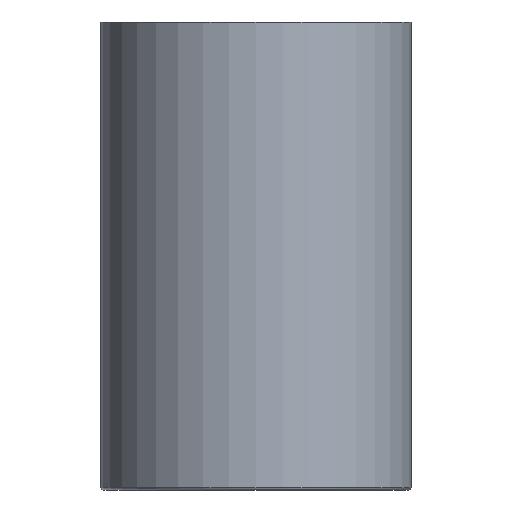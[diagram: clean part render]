
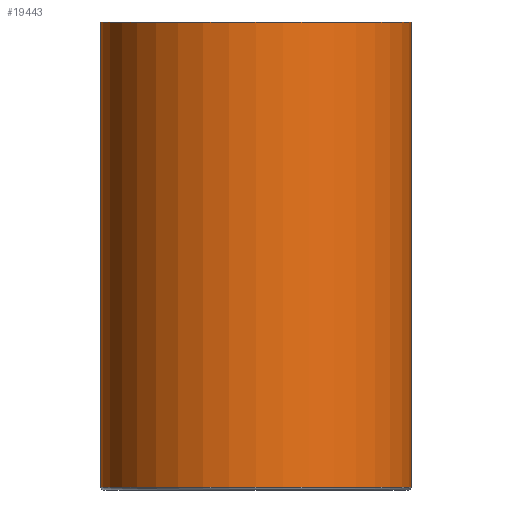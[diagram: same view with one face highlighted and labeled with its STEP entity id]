
A CAD part, front view. The second image highlights one B-rep face of the part: STEP entity #19443.
In plain terms, the highlighted cylindrical face has radius 88.9 mm (diameter 177.8 mm), a full revolution.
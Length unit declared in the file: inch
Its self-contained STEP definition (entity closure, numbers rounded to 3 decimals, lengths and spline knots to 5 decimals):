
#1113 = VERTEX_POINT ( 'NONE', #2389 ) ;
#1301 = VERTEX_POINT ( 'NONE', #2671 ) ;
#1302 = FACE_OUTER_BOUND ( 'NONE', #14771, .T. ) ;
#1342 = CYLINDRICAL_SURFACE ( 'NONE', #10324, 3.5 ) ;
#1367 = FACE_OUTER_BOUND ( 'NONE', #14769, .T. ) ;
#1822 = ORIENTED_EDGE ( 'NONE', *, *, #9365, .T. ) ;
#2017 = ORIENTED_EDGE ( 'NONE', *, *, #9478, .T. ) ;
#2389 = CARTESIAN_POINT ( 'NONE',  ( -3.5, 0., 5.282 ) ) ;
#2671 = CARTESIAN_POINT ( 'NONE',  ( -3.5, 0., -5.2195 ) ) ;
#9365 = EDGE_CURVE ( 'NONE', #1301, #1301, #15975, .T. ) ;
#9478 = EDGE_CURVE ( 'NONE', #1113, #1113, #15929, .T. ) ;
#9739 = AXIS2_PLACEMENT_3D ( 'NONE', #14539, #14536, #14530 ) ;
#9749 = AXIS2_PLACEMENT_3D ( 'NONE', #14091, #14089, #14087 ) ;
#10324 = AXIS2_PLACEMENT_3D ( 'NONE', #17844, #18372, #17883 ) ;
#14087 = DIRECTION ( 'NONE',  ( -1., 0., 0. ) ) ;
#14089 = DIRECTION ( 'NONE',  ( 0., 0., -1. ) ) ;
#14091 = CARTESIAN_POINT ( 'NONE',  ( 0., 0., 5.282 ) ) ;
#14530 = DIRECTION ( 'NONE',  ( -1., 0., 0. ) ) ;
#14536 = DIRECTION ( 'NONE',  ( 0., 0., 1. ) ) ;
#14539 = CARTESIAN_POINT ( 'NONE',  ( 0., 0., -5.2195 ) ) ;
#14769 = EDGE_LOOP ( 'NONE', ( #1822 ) ) ;
#14771 = EDGE_LOOP ( 'NONE', ( #2017 ) ) ;
#15929 = CIRCLE ( 'NONE', #9749, 3.5 ) ;
#15975 = CIRCLE ( 'NONE', #9739, 3.5 ) ;
#17844 = CARTESIAN_POINT ( 'NONE',  ( 0., 0., -13.585 ) ) ;
#17883 = DIRECTION ( 'NONE',  ( -1., 0., 0. ) ) ;
#18372 = DIRECTION ( 'NONE',  ( 0., 0., -1. ) ) ;
#19443 = ADVANCED_FACE ( 'NONE', ( #1367, #1302 ), #1342, .T. ) ;
